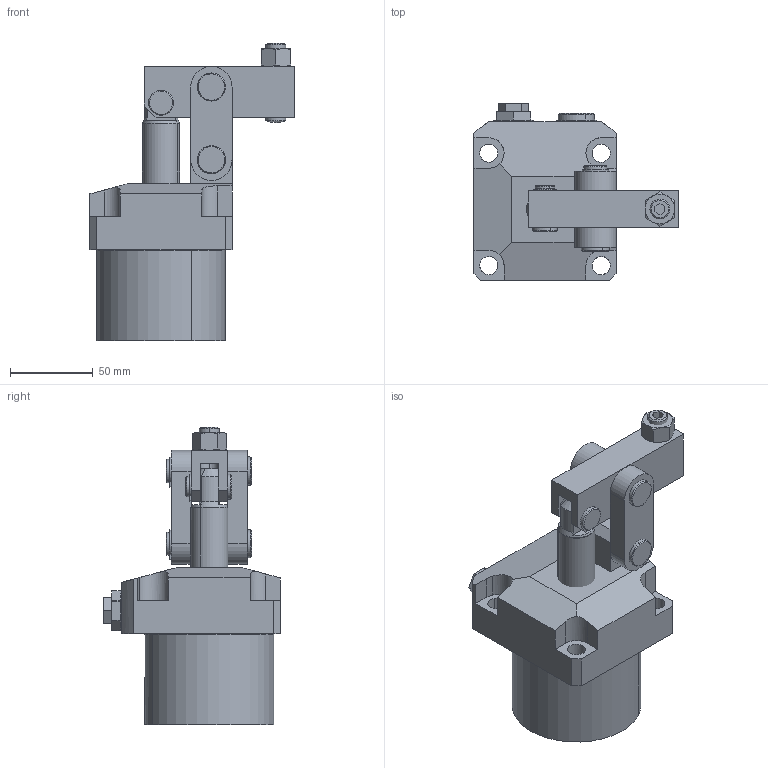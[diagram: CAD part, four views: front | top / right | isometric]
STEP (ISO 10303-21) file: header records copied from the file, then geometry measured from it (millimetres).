
FILE_DESCRIPTION(('CATIA V5 STEP Exchange'),'2;1');
FILE_NAME('\\Kjf-102\kjf_tc\Hydraulic_Clamp\Standard\HINGE_CLAMP\New_Hinge-Clamp\HGC-5636G\배포도면\CHGC-5678GV-LH-L.stp','2017-09-15T04:33:32+00:00',('none'),('none'),'CATIA Version 5 Release 19 SP 6 (IN-10)','CATIA V5 STEP AP214','none');
FILE_SCHEMA(('AUTOMOTIVE_DESIGN { 1 0 10303 214 1 1 1 1 }'));
Length unit declared in the file: millimetre
Products named in the file (1): CHGC-5678GV-LH-L
Bounding box: 123.5 x 107 x 180 mm (x, y, z)
Volume: 577343.6 mm3; surface area: 108937.7 mm2
Topology: 15 solids, 16 shells, 384 faces, 937 edges, 606 vertices
Faces by surface type: plane 162, cylinder 150, cone 62, torus 6, sphere 4
Entity records: 11652 total; most frequent: CARTESIAN_POINT 2760, ORIENTED_EDGE 1866, DIRECTION 1549, EDGE_CURVE 933, AXIS2_PLACEMENT_3D 714, VERTEX_POINT 606, VECTOR 486, LINE 486
